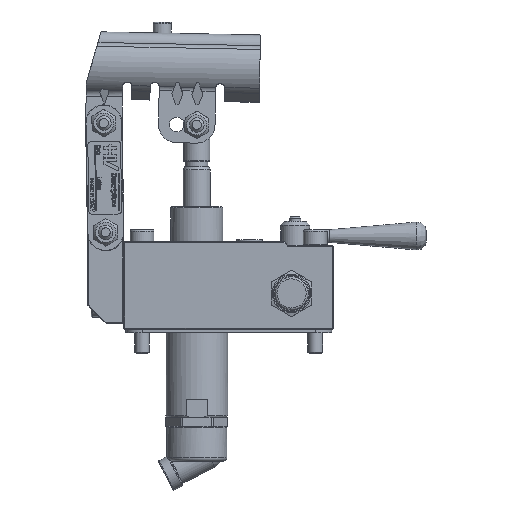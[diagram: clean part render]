
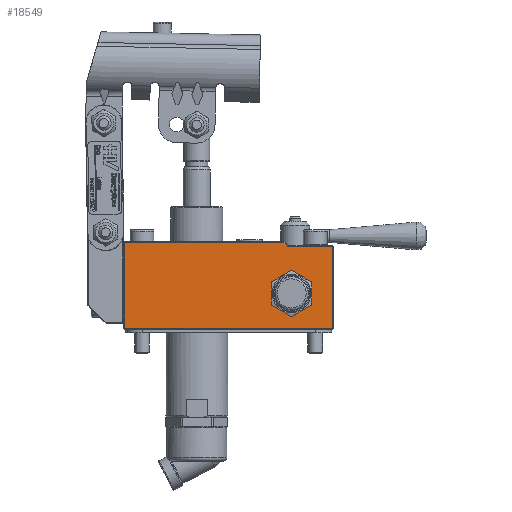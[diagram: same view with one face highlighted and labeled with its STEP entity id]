
A CAD part, left-side view. The second image highlights one B-rep face of the part: STEP entity #18549.
In plain terms, the highlighted planar face has unit normal (-1, 0, 0).
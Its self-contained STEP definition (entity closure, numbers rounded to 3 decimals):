
#18178=CARTESIAN_POINT('',(0.,114.5,47.5));
#18179=VERTEX_POINT('',#18178);
#18187=CARTESIAN_POINT('',(0.,114.5,0.5));
#18188=VERTEX_POINT('',#18187);
#18195=CARTESIAN_POINT('',(0.,114.5,0.5));
#18196=DIRECTION('',(0.0,0.0,1.0));
#18197=VECTOR('',#18196,47.);
#18198=LINE('',#18195,#18197);
#18199=EDGE_CURVE('',#18188,#18179,#18198,.T.);
#18272=CARTESIAN_POINT('',(0.,0.5,0.5));
#18273=VERTEX_POINT('',#18272);
#18280=CARTESIAN_POINT('',(0.,0.5,0.5));
#18281=DIRECTION('',(0.0,1.0,0.0));
#18282=VECTOR('',#18281,114.0);
#18283=LINE('',#18280,#18282);
#18284=EDGE_CURVE('',#18273,#18188,#18283,.T.);
#18482=CARTESIAN_POINT('',(0.,27.207,47.5));
#18483=VERTEX_POINT('',#18482);
#18497=CARTESIAN_POINT('',(0.,114.5,47.5));
#18498=DIRECTION('',(0.0,-1.0,0.0));
#18499=VECTOR('',#18498,87.293);
#18500=LINE('',#18497,#18499);
#18501=EDGE_CURVE('',#18179,#18483,#18500,.T.);
#18506=CARTESIAN_POINT('',(0.0,0.0,0.0));
#18507=DIRECTION('',(-1.0,0.0,0.0));
#18508=DIRECTION('',(0.0,0.0,1.0));
#18509=AXIS2_PLACEMENT_3D('',#18506,#18507,#18508);
#18510=PLANE('',#18509);
#18511=CARTESIAN_POINT('',(0.,25.207,45.5));
#18512=VERTEX_POINT('',#18511);
#18513=CARTESIAN_POINT('',(0.,27.207,47.5));
#18514=DIRECTION('',(0.,-0.707,-0.707));
#18515=VECTOR('',#18514,2.828);
#18516=LINE('',#18513,#18515);
#18517=EDGE_CURVE('',#18483,#18512,#18516,.T.);
#18518=ORIENTED_EDGE('',*,*,#18517,.F.);
#18519=ORIENTED_EDGE('',*,*,#18501,.F.);
#18520=ORIENTED_EDGE('',*,*,#18199,.F.);
#18521=ORIENTED_EDGE('',*,*,#18284,.F.);
#18522=CARTESIAN_POINT('',(0.,0.5,45.5));
#18523=VERTEX_POINT('',#18522);
#18524=CARTESIAN_POINT('',(0.,0.5,45.5));
#18525=DIRECTION('',(0.0,0.0,-1.0));
#18526=VECTOR('',#18525,45.);
#18527=LINE('',#18524,#18526);
#18528=EDGE_CURVE('',#18523,#18273,#18527,.T.);
#18529=ORIENTED_EDGE('',*,*,#18528,.F.);
#18530=CARTESIAN_POINT('',(0.,25.207,45.5));
#18531=DIRECTION('',(0.0,-1.0,0.0));
#18532=VECTOR('',#18531,24.707);
#18533=LINE('',#18530,#18532);
#18534=EDGE_CURVE('',#18512,#18523,#18533,.T.);
#18535=ORIENTED_EDGE('',*,*,#18534,.F.);
#18536=EDGE_LOOP('',(#18518,#18519,#18520,#18521,#18529,#18535));
#18537=FACE_OUTER_BOUND('',#18536,.T.);
#18538=CARTESIAN_POINT('',(0.,23.,30.0));
#18539=VERTEX_POINT('',#18538);
#18540=CARTESIAN_POINT('',(0.,23.,19.5));
#18541=DIRECTION('',(1.0,0.0,0.0));
#18542=DIRECTION('',(0.0,0.0,1.0));
#18543=AXIS2_PLACEMENT_3D('',#18540,#18541,#18542);
#18544=CIRCLE('',#18543,10.5);
#18545=EDGE_CURVE('',#18539,#18539,#18544,.T.);
#18546=ORIENTED_EDGE('',*,*,#18545,.T.);
#18547=EDGE_LOOP('',(#18546));
#18548=FACE_BOUND('',#18547,.T.);
#18549=ADVANCED_FACE('',(#18537,#18548),#18510,.T.);
